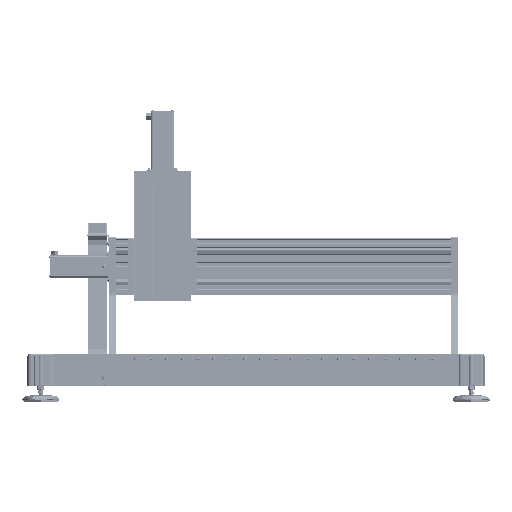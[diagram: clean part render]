
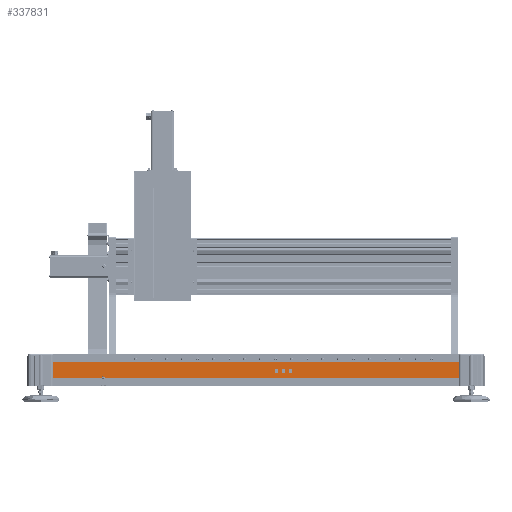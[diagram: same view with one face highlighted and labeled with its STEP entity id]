
A CAD part, top view. The second image highlights one B-rep face of the part: STEP entity #337831.
In plain terms, the highlighted planar face has unit normal (0, 0, 1).
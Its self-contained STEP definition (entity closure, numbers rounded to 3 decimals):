
#6825 = CIRCLE ( 'NONE', #66526, 3.5 ) ;
#10983 = VERTEX_POINT ( 'NONE', #500768 ) ;
#11731 = CARTESIAN_POINT ( 'NONE',  ( 650., 75.3, 691. ) ) ;
#23243 = DIRECTION ( 'NONE',  ( 0., 0., 1. ) ) ;
#24067 = LINE ( 'NONE', #384474, #24167 ) ;
#24167 = VECTOR ( 'NONE', #75478, 1000. ) ;
#26541 = CARTESIAN_POINT ( 'NONE',  ( 650., 75.3, 691. ) ) ;
#26828 = CARTESIAN_POINT ( 'NONE',  ( 650., 124.7, 691. ) ) ;
#27768 = EDGE_LOOP ( 'NONE', ( #164996, #537269, #33437, #551802, #295864, #483560 ) ) ;
#28759 = CARTESIAN_POINT ( 'NONE',  ( 94., 96., 691. ) ) ;
#31685 = CARTESIAN_POINT ( 'NONE',  ( 650., 50., 691. ) ) ;
#33437 = ORIENTED_EDGE ( 'NONE', *, *, #83682, .T. ) ;
#48339 = VERTEX_POINT ( 'NONE', #453039 ) ;
#63382 = VECTOR ( 'NONE', #536601, 1000. ) ;
#63472 = CARTESIAN_POINT ( 'NONE',  ( 116.5, 96., 691. ) ) ;
#66526 = AXIS2_PLACEMENT_3D ( 'NONE', #192444, #501494, #236937 ) ;
#67455 = LINE ( 'NONE', #272229, #63382 ) ;
#70935 = DIRECTION ( 'NONE',  ( -1., 0., 0. ) ) ;
#72900 = DIRECTION ( 'NONE',  ( 0., 1., 0. ) ) ;
#75478 = DIRECTION ( 'NONE',  ( 0., 1., 0. ) ) ;
#83682 = EDGE_CURVE ( 'NONE', #457486, #495209, #358382, .T. ) ;
#94342 = EDGE_CURVE ( 'NONE', #446698, #404865, #67455, .T. ) ;
#98154 = CIRCLE ( 'NONE', #399379, 6. ) ;
#115282 = CARTESIAN_POINT ( 'NONE',  ( 650., 50., 691. ) ) ;
#117373 = CARTESIAN_POINT ( 'NONE',  ( 650., 124.7, 691. ) ) ;
#129797 = CARTESIAN_POINT ( 'NONE',  ( -486.513, 75.3, 691. ) ) ;
#143545 = FACE_OUTER_BOUND ( 'NONE', #27768, .T. ) ;
#143639 = FACE_BOUND ( 'NONE', #281550, .T. ) ;
#144163 = FACE_BOUND ( 'NONE', #219441, .T. ) ;
#146271 = FACE_BOUND ( 'NONE', #237848, .T. ) ;
#158243 = DIRECTION ( 'NONE',  ( 0., 0., 1. ) ) ;
#164708 = DIRECTION ( 'NONE',  ( 1., 0., 0. ) ) ;
#164996 = ORIENTED_EDGE ( 'NONE', *, *, #271833, .F. ) ;
#167319 = VERTEX_POINT ( 'NONE', #63472 ) ;
#170161 = CIRCLE ( 'NONE', #397692, 6. ) ;
#179343 = ORIENTED_EDGE ( 'NONE', *, *, #500433, .F. ) ;
#192444 = CARTESIAN_POINT ( 'NONE',  ( -490., 75., 691. ) ) ;
#219441 = EDGE_LOOP ( 'NONE', ( #179343 ) ) ;
#219927 = DIRECTION ( 'NONE',  ( 0., 0., 1. ) ) ;
#236919 = EDGE_CURVE ( 'NONE', #278998, #278998, #493357, .T. ) ;
#236937 = DIRECTION ( 'NONE',  ( 1., 0., 0. ) ) ;
#237848 = EDGE_LOOP ( 'NONE', ( #543526 ) ) ;
#250100 = LINE ( 'NONE', #117373, #251420 ) ;
#250797 = DIRECTION ( 'NONE',  ( -1., 0., 0. ) ) ;
#250839 = AXIS2_PLACEMENT_3D ( 'NONE', #31685, #429448, #164708 ) ;
#251420 = VECTOR ( 'NONE', #250797, 1000. ) ;
#271833 = EDGE_CURVE ( 'NONE', #499795, #446698, #6825, .T. ) ;
#272042 = AXIS2_PLACEMENT_3D ( 'NONE', #422960, #158243, #467384 ) ;
#272229 = CARTESIAN_POINT ( 'NONE',  ( 650., 75.3, 691. ) ) ;
#278998 = VERTEX_POINT ( 'NONE', #28759 ) ;
#281550 = EDGE_LOOP ( 'NONE', ( #428298 ) ) ;
#287777 = CARTESIAN_POINT ( 'NONE',  ( 65.5, 96., 691. ) ) ;
#295864 = ORIENTED_EDGE ( 'NONE', *, *, #435974, .F. ) ;
#332259 = DIRECTION ( 'NONE',  ( 1., 0., 0. ) ) ;
#337831 = ADVANCED_FACE ( 'NONE', ( #143545, #146271, #144163, #143639 ), #385010, .T. ) ;
#356013 = VECTOR ( 'NONE', #72900, 1000. ) ;
#358382 = LINE ( 'NONE', #115282, #356013 ) ;
#384474 = CARTESIAN_POINT ( 'NONE',  ( -650., 50., 691. ) ) ;
#385010 = PLANE ( 'NONE',  #250839 ) ;
#393832 = CARTESIAN_POINT ( 'NONE',  ( -650., 75.3, 691. ) ) ;
#397692 = AXIS2_PLACEMENT_3D ( 'NONE', #287777, #23243, #332259 ) ;
#399379 = AXIS2_PLACEMENT_3D ( 'NONE', #484522, #219927, #528857 ) ;
#402554 = EDGE_CURVE ( 'NONE', #457486, #499795, #414607, .T. ) ;
#404865 = VERTEX_POINT ( 'NONE', #393832 ) ;
#411254 = VECTOR ( 'NONE', #70935, 1000. ) ;
#414607 = LINE ( 'NONE', #26541, #411254 ) ;
#422960 = CARTESIAN_POINT ( 'NONE',  ( 88., 96., 691. ) ) ;
#428298 = ORIENTED_EDGE ( 'NONE', *, *, #528418, .F. ) ;
#429448 = DIRECTION ( 'NONE',  ( 0., 0., 1. ) ) ;
#433190 = EDGE_CURVE ( 'NONE', #495209, #10983, #250100, .T. ) ;
#435974 = EDGE_CURVE ( 'NONE', #404865, #10983, #24067, .T. ) ;
#446698 = VERTEX_POINT ( 'NONE', #473819 ) ;
#453039 = CARTESIAN_POINT ( 'NONE',  ( 71.5, 96., 691. ) ) ;
#457486 = VERTEX_POINT ( 'NONE', #11731 ) ;
#467384 = DIRECTION ( 'NONE',  ( 1., 0., 0. ) ) ;
#473819 = CARTESIAN_POINT ( 'NONE',  ( -493.487, 75.3, 691. ) ) ;
#483560 = ORIENTED_EDGE ( 'NONE', *, *, #94342, .F. ) ;
#484522 = CARTESIAN_POINT ( 'NONE',  ( 110.5, 96., 691. ) ) ;
#493357 = CIRCLE ( 'NONE', #272042, 6. ) ;
#495209 = VERTEX_POINT ( 'NONE', #26828 ) ;
#499795 = VERTEX_POINT ( 'NONE', #129797 ) ;
#500433 = EDGE_CURVE ( 'NONE', #167319, #167319, #98154, .T. ) ;
#500768 = CARTESIAN_POINT ( 'NONE',  ( -650., 124.7, 691. ) ) ;
#501494 = DIRECTION ( 'NONE',  ( 0., 0., 1. ) ) ;
#528418 = EDGE_CURVE ( 'NONE', #48339, #48339, #170161, .T. ) ;
#528857 = DIRECTION ( 'NONE',  ( 1., 0., 0. ) ) ;
#536601 = DIRECTION ( 'NONE',  ( -1., 0., 0. ) ) ;
#537269 = ORIENTED_EDGE ( 'NONE', *, *, #402554, .F. ) ;
#543526 = ORIENTED_EDGE ( 'NONE', *, *, #236919, .F. ) ;
#551802 = ORIENTED_EDGE ( 'NONE', *, *, #433190, .T. ) ;
